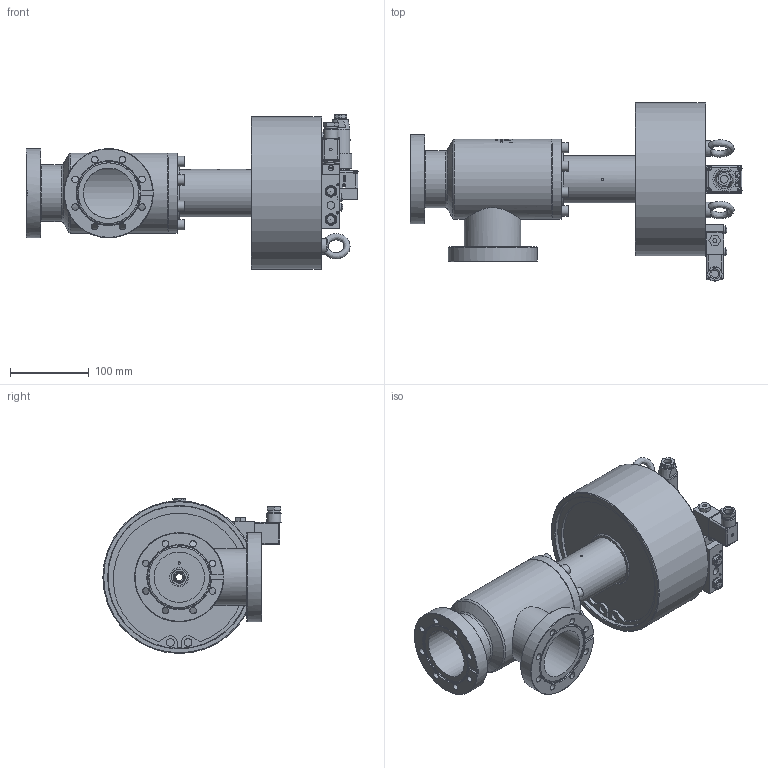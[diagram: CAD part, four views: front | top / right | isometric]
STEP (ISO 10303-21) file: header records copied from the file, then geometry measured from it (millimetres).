
FILE_DESCRIPTION(/* description */ (''),/* implementation_level */ '2;1');
FILE_NAME(/* name */ '1615294024_203.stp',/* time_stamp */ '2011-05-20T09:22:33+02:00',/* author */ (''),/* organization */ (''),/* preprocessor_version */ 'ST-DEVELOPER v11',/* originating_system */ 'SIEMENS UGS NX 6.0',/* authorisation */ '');
FILE_SCHEMA (('CONFIG_CONTROL_DESIGN'));
Length unit declared in the file: millimetre
Products named in the file (24): 223629.7; 214277_1.5_15104ID; 206559.1; 206560.1; N-7501-502_2; N-7501-502_1; N-8501-300; N-6024-562; 366217; n-6024-531; 69672-01; n-8504-002; 80420-01; 211199; 206322_1.1; 231935_1; 206323_1.1; n-6033-403; n-6203-180; N-5019-816.1; 206312.3; 214282.6; 312343.1; 235496.9
Assembly tree (39 placements, depth 4):
  235496.9
    206312.3
    N-5019-816.1  x8
    n-6203-180
    n-6033-403  x2
    206323_1.1
    231935_1
    206322_1.1
    211199  x2
    80420-01
    n-8504-002
    69672-01
    n-6024-531  x4
    366217  x2
    N-6024-562  x2
    N-8501-300
    N-7501-502_1
    N-7501-502_2
    312343.1
      206560.1  x2
      206559.1  x2
      214282.6
        214277_1.5_15104ID
        223629.7
Bounding box: 422 x 226.5 x 197 mm (x, y, z)
Volume: 2477241.6 mm3; surface area: 572703.1 mm2
Topology: 53 solids, 53 shells, 1261 faces, 3219 edges, 2239 vertices
Faces by surface type: plane 691, cylinder 397, cone 105, bspline 26, sphere 16, torus 13, extrusion 13
Full cylindrical faces by diameter (mm): 1.95 x4, 2.25 x4, 2.5 x6, 3 x14, 3.15 x1, 3.2 x1, 3.4 x4, 3.6 x2, 4 x4, 4.2 x2, 4.4 x2, 4.9 x1, 5 x6, 5.5 x3, 6 x14, 6.5 x4, 6.66 x8, 6.7 x8, 6.8 x10, 7.78 x1, 8 x28, 8.4 x16, 8.6 x8, 9.05 x1, 9.728 x5, 10 x7, 10.3 x1, 11.65 x1, 13 x8, 13.3 x1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
Entity records: 36900 total; most frequent: CARTESIAN_POINT 11191, ORIENTED_EDGE 4568, DIRECTION 4192, EDGE_CURVE 2284, VERTEX_POINT 1813, AXIS2_PLACEMENT_3D 1668, EDGE_LOOP 1476, ADVANCED_FACE 963
